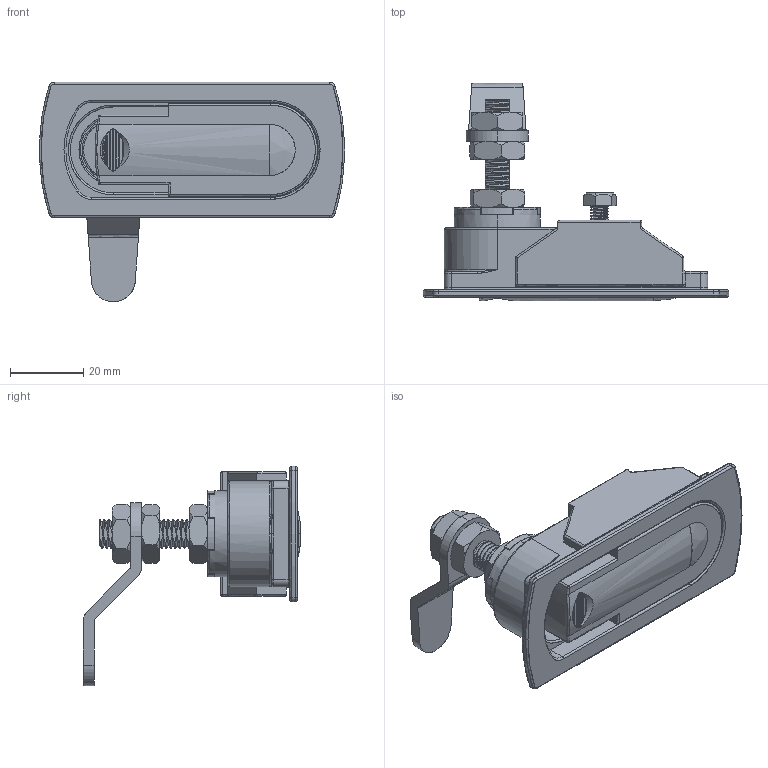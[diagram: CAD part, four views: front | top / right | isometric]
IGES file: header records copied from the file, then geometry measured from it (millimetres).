
Start section: SolidWorks IGES file using analytic representation for surfaces
Global section: file name: D:\尚坤工业图纸\SK1--门锁系列\SK1-181\SK1-181.IGS; native system: SolidWorks 2015; preprocessor: SolidWorks 2015; author: admin; date: 181101.110357; units: millimetre
Bounding box: 83.5 x 59.5 x 60 mm (x, y, z)
Surface area: 19428.5 mm2 (no closed solid volume)
Topology: 0 solids, 0 shells, 511 faces, 6643 edges, 6629 vertices
Faces by surface type: revolution 272, bspline 239
